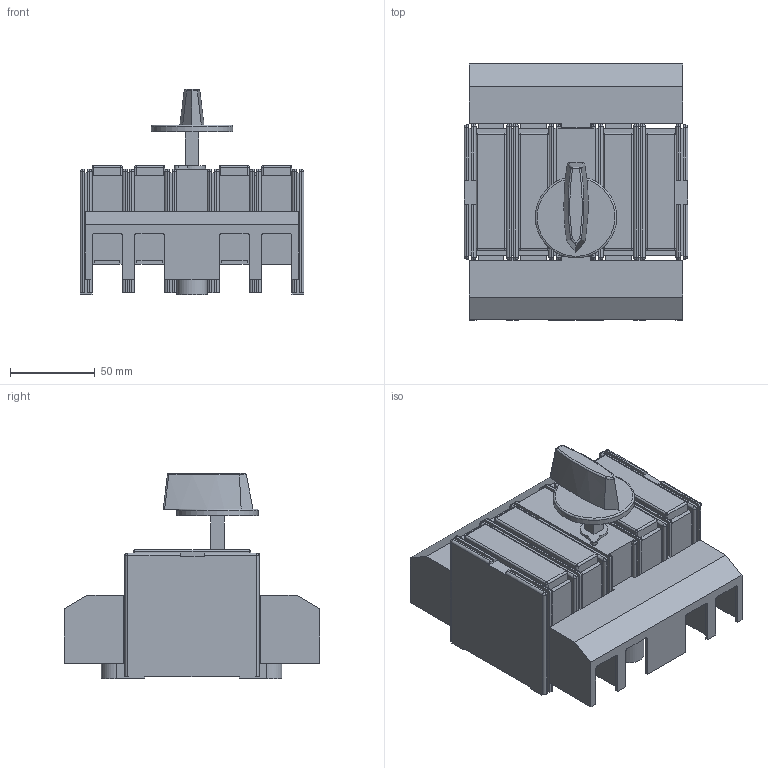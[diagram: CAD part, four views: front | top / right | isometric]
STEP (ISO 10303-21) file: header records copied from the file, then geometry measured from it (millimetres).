
FILE_DESCRIPTION(/* description */ (''),/* implementation_level */ '2;1');
FILE_NAME(/* name */ 'RA100 P3-R z oslonka zaciskow.stp',/* time_stamp */ '2021-08-17T12:54:59+02:00',/* author */ (''),/* organization */ (''),/* preprocessor_version */ 'ST-DEVELOPER v18.1',/* originating_system */ 'SIEMENS PLM Software NX 1965',/* authorisation */ '');
FILE_SCHEMA (('AUTOMOTIVE_DESIGN { 1 0 10303 214 3 1 1 1 }'));
Length unit declared in the file: millimetre
Products named in the file (1): RA100 P3-R z oslonka zaciskow_stp
Bounding box: 132 x 151.03 x 121 mm (x, y, z)
Volume: 712788.5 mm3; surface area: 133447.8 mm2
Topology: 1 solids, 1 shells, 490 faces, 1327 edges, 808 vertices
Faces by surface type: plane 306, cylinder 135, sphere 41, bspline 7, torus 1
Full cylindrical faces by diameter (mm): 5.8 x2, 6.5 x6, 10 x2, 11.5 x2, 48 x1
Entity records: 14920 total; most frequent: CARTESIAN_POINT 2794, ORIENTED_EDGE 2526, DIRECTION 2486, EDGE_CURVE 1263, LINE 970, VECTOR 970, VERTEX_POINT 800, AXIS2_PLACEMENT_3D 758
